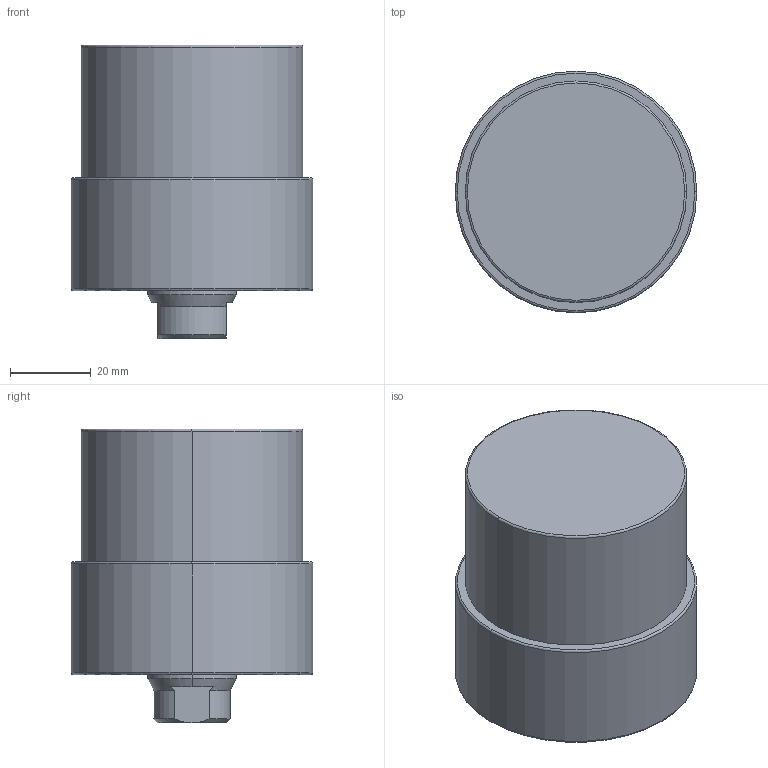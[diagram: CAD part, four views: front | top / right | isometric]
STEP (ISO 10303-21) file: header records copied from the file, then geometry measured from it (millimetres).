
FILE_DESCRIPTION (( 'STEP AP203' ), '1' );
FILE_NAME ('CLLU055-CA-020.STEP', '2017-05-12T11:04:19', ( '' ), ( '' ), 'SwSTEP 2.0', 'SolidWorks 2015', '' );
FILE_SCHEMA (( 'CONFIG_CONTROL_DESIGN' ));
Length unit declared in the file: millimetre
Products named in the file (1): CLLU055-CA-020
Bounding box: 60 x 60 x 73 mm (x, y, z)
Volume: 157903.4 mm3; surface area: 19024.6 mm2
Topology: 1 solids, 1 shells, 62 faces, 138 edges, 77 vertices
Faces by surface type: cone 24, cylinder 22, plane 10, torus 6
Entity records: 1745 total; most frequent: DIRECTION 318, CARTESIAN_POINT 308, ORIENTED_EDGE 256, AXIS2_PLACEMENT_3D 135, EDGE_CURVE 128, VERTEX_POINT 77, CIRCLE 72, EDGE_LOOP 71
